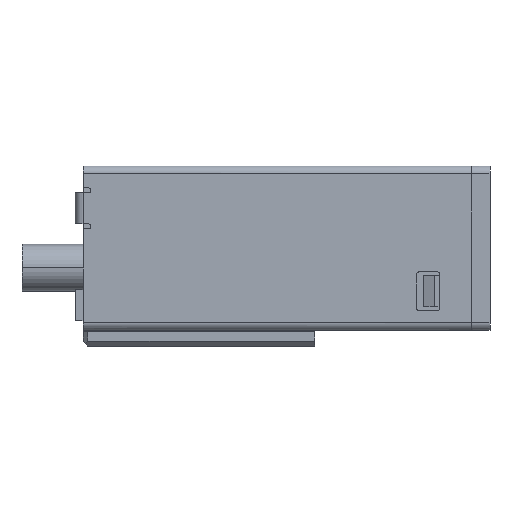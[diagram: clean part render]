
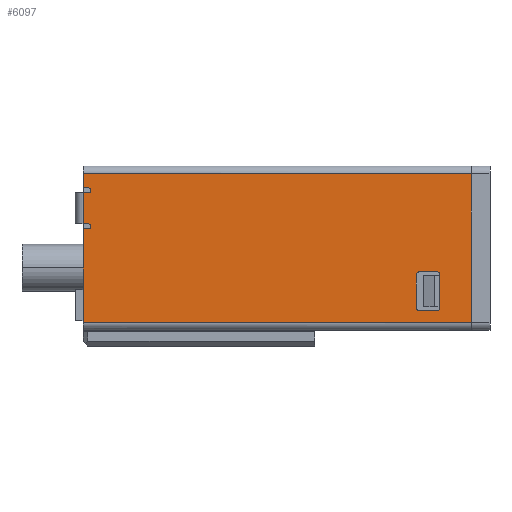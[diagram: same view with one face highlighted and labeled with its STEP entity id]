
A CAD part, left-side view. The second image highlights one B-rep face of the part: STEP entity #6097.
In plain terms, the highlighted planar face has unit normal (-1, 0, 0).
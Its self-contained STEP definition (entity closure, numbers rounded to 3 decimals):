
#131=DIRECTION('',(0.,0.,-1.));
#132=VECTOR('',#131,9.5);
#133=CARTESIAN_POINT('',(-7.7,1.5,9.2));
#134=LINE('',#133,#132);
#171=DIRECTION('',(0.,1.,0.));
#172=VECTOR('',#171,24.8);
#173=CARTESIAN_POINT('',(-7.7,1.5,-0.3));
#174=LINE('',#173,#172);
#175=DIRECTION('',(0.,-1.,0.));
#176=VECTOR('',#175,0.35);
#177=CARTESIAN_POINT('',(-7.7,26.3,5.7));
#178=LINE('',#177,#176);
#179=CARTESIAN_POINT('',(-7.7,25.95,5.85));
#180=DIRECTION('',(-1.,0.,0.));
#181=DIRECTION('',(0.,0.,-1.));
#182=AXIS2_PLACEMENT_3D('',#179,#180,#181);
#184=DIRECTION('',(0.,1.,0.));
#185=VECTOR('',#184,0.35);
#186=CARTESIAN_POINT('',(-7.7,25.95,8.));
#187=LINE('',#186,#185);
#188=CARTESIAN_POINT('',(-7.7,25.95,8.15));
#189=DIRECTION('',(-1.,0.,0.));
#190=DIRECTION('',(0.,0.,-1.));
#191=AXIS2_PLACEMENT_3D('',#188,#189,#190);
#193=DIRECTION('',(0.,-1.,0.));
#194=VECTOR('',#193,0.35);
#195=CARTESIAN_POINT('',(-7.7,26.3,8.3));
#196=LINE('',#195,#194);
#197=DIRECTION('',(0.,1.,0.));
#198=VECTOR('',#197,24.8);
#199=CARTESIAN_POINT('',(-7.7,1.5,9.2));
#200=LINE('',#199,#198);
#201=DIRECTION('',(0.,1.,0.));
#202=VECTOR('',#201,1.1);
#203=CARTESIAN_POINT('',(-7.7,3.7,2.95));
#204=LINE('',#203,#202);
#205=DIRECTION('',(0.,0.,-1.));
#206=VECTOR('',#205,2.1);
#207=CARTESIAN_POINT('',(-7.7,5.,2.75));
#208=LINE('',#207,#206);
#209=DIRECTION('',(0.,-1.,0.));
#210=VECTOR('',#209,1.1);
#211=CARTESIAN_POINT('',(-7.7,4.8,0.45));
#212=LINE('',#211,#210);
#213=DIRECTION('',(0.,0.,1.));
#214=VECTOR('',#213,2.1);
#215=CARTESIAN_POINT('',(-7.7,3.5,0.65));
#216=LINE('',#215,#214);
#610=DIRECTION('',(0.,0.,1.));
#611=VECTOR('',#610,6.);
#612=CARTESIAN_POINT('',(-7.7,26.3,-0.3));
#613=LINE('',#612,#611);
#758=DIRECTION('',(0.,0.,1.));
#759=VECTOR('',#758,0.9);
#760=CARTESIAN_POINT('',(-7.7,26.3,8.3));
#761=LINE('',#760,#759);
#2898=DIRECTION('',(0.,1.,0.));
#2899=VECTOR('',#2898,0.35);
#2900=CARTESIAN_POINT('',(-7.7,25.95,6.));
#2901=LINE('',#2900,#2899);
#2923=DIRECTION('',(0.,0.,-1.));
#2924=VECTOR('',#2923,2.);
#2925=CARTESIAN_POINT('',(-7.7,26.3,8.));
#2926=LINE('',#2925,#2924);
#3989=CARTESIAN_POINT('',(-7.7,4.8,0.65));
#3990=DIRECTION('',(1.,0.,0.));
#3991=DIRECTION('',(0.,0.,-1.));
#3992=AXIS2_PLACEMENT_3D('',#3989,#3990,#3991);
#4007=CARTESIAN_POINT('',(-7.7,3.7,0.65));
#4008=DIRECTION('',(1.,0.,0.));
#4009=DIRECTION('',(0.,-1.,0.));
#4010=AXIS2_PLACEMENT_3D('',#4007,#4008,#4009);
#4025=CARTESIAN_POINT('',(-7.7,3.7,2.75));
#4026=DIRECTION('',(1.,0.,0.));
#4027=DIRECTION('',(0.,0.,1.));
#4028=AXIS2_PLACEMENT_3D('',#4025,#4026,#4027);
#4043=CARTESIAN_POINT('',(-7.7,4.8,2.75));
#4044=DIRECTION('',(1.,0.,0.));
#4045=DIRECTION('',(0.,1.,0.));
#4046=AXIS2_PLACEMENT_3D('',#4043,#4044,#4045);
#5349=CARTESIAN_POINT('',(-7.7,26.3,9.2));
#5351=VERTEX_POINT('',#5349);
#5362=CARTESIAN_POINT('',(-7.7,26.3,-0.3));
#5364=VERTEX_POINT('',#5362);
#5437=CARTESIAN_POINT('',(-7.7,26.3,5.7));
#5439=VERTEX_POINT('',#5437);
#5449=CARTESIAN_POINT('',(-7.7,26.3,8.3));
#5450=VERTEX_POINT('',#5449);
#5465=CARTESIAN_POINT('',(-7.7,26.3,8.));
#5466=CARTESIAN_POINT('',(-7.7,26.3,6.));
#5467=VERTEX_POINT('',#5465);
#5468=VERTEX_POINT('',#5466);
#5490=CARTESIAN_POINT('',(-7.7,25.95,5.7));
#5492=VERTEX_POINT('',#5490);
#5494=CARTESIAN_POINT('',(-7.7,25.95,6.));
#5496=VERTEX_POINT('',#5494);
#5497=CARTESIAN_POINT('',(-7.7,25.95,8.));
#5498=VERTEX_POINT('',#5497);
#5506=CARTESIAN_POINT('',(-7.7,25.95,8.3));
#5508=VERTEX_POINT('',#5506);
#5593=CARTESIAN_POINT('',(-7.7,3.5,0.65));
#5595=VERTEX_POINT('',#5593);
#5597=CARTESIAN_POINT('',(-7.7,3.7,0.45));
#5599=VERTEX_POINT('',#5597);
#5601=CARTESIAN_POINT('',(-7.7,4.8,0.45));
#5603=VERTEX_POINT('',#5601);
#5605=CARTESIAN_POINT('',(-7.7,5.,0.65));
#5607=VERTEX_POINT('',#5605);
#5609=CARTESIAN_POINT('',(-7.7,5.,2.75));
#5611=VERTEX_POINT('',#5609);
#5613=CARTESIAN_POINT('',(-7.7,4.8,2.95));
#5615=VERTEX_POINT('',#5613);
#5641=CARTESIAN_POINT('',(-7.7,3.7,2.95));
#5642=CARTESIAN_POINT('',(-7.7,3.5,2.75));
#5643=VERTEX_POINT('',#5641);
#5644=VERTEX_POINT('',#5642);
#5649=CARTESIAN_POINT('',(-7.7,1.5,9.2));
#5650=CARTESIAN_POINT('',(-7.7,1.5,-0.3));
#5651=VERTEX_POINT('',#5649);
#5652=VERTEX_POINT('',#5650);
#6050=CARTESIAN_POINT('',(-7.7,1.5,9.7));
#6051=DIRECTION('',(-1.,0.,0.));
#6052=DIRECTION('',(0.,0.,-1.));
#6053=AXIS2_PLACEMENT_3D('',#6050,#6051,#6052);
#6054=PLANE('',#6053);
#6056=ORIENTED_EDGE('',*,*,#6055,.T.);
#6058=ORIENTED_EDGE('',*,*,#6057,.T.);
#6060=ORIENTED_EDGE('',*,*,#6059,.T.);
#6062=ORIENTED_EDGE('',*,*,#6061,.T.);
#6064=ORIENTED_EDGE('',*,*,#6063,.T.);
#6066=ORIENTED_EDGE('',*,*,#6065,.F.);
#6068=ORIENTED_EDGE('',*,*,#6067,.F.);
#6070=ORIENTED_EDGE('',*,*,#6069,.T.);
#6072=ORIENTED_EDGE('',*,*,#6071,.F.);
#6074=ORIENTED_EDGE('',*,*,#6073,.T.);
#6075=ORIENTED_EDGE('',*,*,#5994,.F.);
#6076=ORIENTED_EDGE('',*,*,#6024,.T.);
#6077=EDGE_LOOP('',(#6056,#6058,#6060,#6062,#6064,#6066,#6068,#6070,#6072,#6074,
#6075,#6076));
#6078=FACE_OUTER_BOUND('',#6077,.F.);
#6080=ORIENTED_EDGE('',*,*,#6079,.T.);
#6082=ORIENTED_EDGE('',*,*,#6081,.F.);
#6084=ORIENTED_EDGE('',*,*,#6083,.T.);
#6086=ORIENTED_EDGE('',*,*,#6085,.F.);
#6088=ORIENTED_EDGE('',*,*,#6087,.T.);
#6090=ORIENTED_EDGE('',*,*,#6089,.F.);
#6092=ORIENTED_EDGE('',*,*,#6091,.T.);
#6094=ORIENTED_EDGE('',*,*,#6093,.F.);
#6095=EDGE_LOOP('',(#6080,#6082,#6084,#6086,#6088,#6090,#6092,#6094));
#6096=FACE_BOUND('',#6095,.F.);
#183=CIRCLE('',#182,0.15);
#192=CIRCLE('',#191,0.15);
#3993=CIRCLE('',#3992,0.2);
#4011=CIRCLE('',#4010,0.2);
#4029=CIRCLE('',#4028,0.2);
#4047=CIRCLE('',#4046,0.2);
#5994=EDGE_CURVE('',#5651,#5351,#200,.T.);
#6024=EDGE_CURVE('',#5651,#5652,#134,.T.);
#6055=EDGE_CURVE('',#5652,#5364,#174,.T.);
#6057=EDGE_CURVE('',#5364,#5439,#613,.T.);
#6059=EDGE_CURVE('',#5439,#5492,#178,.T.);
#6061=EDGE_CURVE('',#5492,#5496,#183,.T.);
#6063=EDGE_CURVE('',#5496,#5468,#2901,.T.);
#6065=EDGE_CURVE('',#5467,#5468,#2926,.T.);
#6067=EDGE_CURVE('',#5498,#5467,#187,.T.);
#6069=EDGE_CURVE('',#5498,#5508,#192,.T.);
#6071=EDGE_CURVE('',#5450,#5508,#196,.T.);
#6073=EDGE_CURVE('',#5450,#5351,#761,.T.);
#6079=EDGE_CURVE('',#5643,#5615,#204,.T.);
#6081=EDGE_CURVE('',#5611,#5615,#4047,.T.);
#6083=EDGE_CURVE('',#5611,#5607,#208,.T.);
#6085=EDGE_CURVE('',#5603,#5607,#3993,.T.);
#6087=EDGE_CURVE('',#5603,#5599,#212,.T.);
#6089=EDGE_CURVE('',#5595,#5599,#4011,.T.);
#6091=EDGE_CURVE('',#5595,#5644,#216,.T.);
#6093=EDGE_CURVE('',#5643,#5644,#4029,.T.);
#6097=ADVANCED_FACE('',(#6078,#6096),#6054,.T.);
